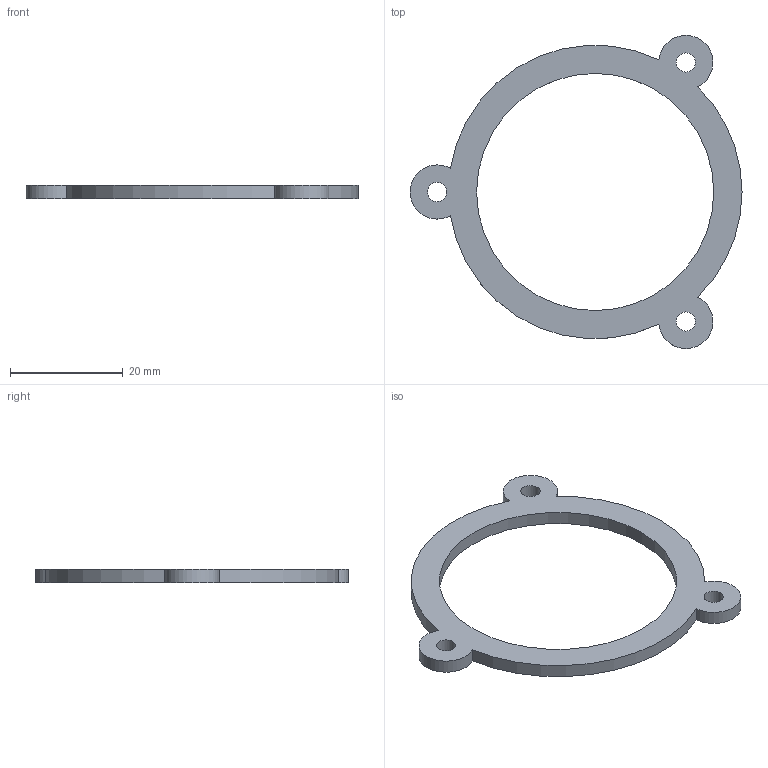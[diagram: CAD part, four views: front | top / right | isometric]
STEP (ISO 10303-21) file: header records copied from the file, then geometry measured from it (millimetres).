
FILE_DESCRIPTION(('Open CASCADE Model'),'2;1');
FILE_NAME('Open CASCADE Shape Model','2026-09-09T13:59:16',('Author'),( 'Open CASCADE'),'Open CASCADE STEP processor 7.9','Open CASCADE 7.9' ,'Unknown');
FILE_SCHEMA(('AUTOMOTIVE_DESIGN { 1 0 10303 214 1 1 1 1 }'));
Length unit declared in the file: millimetre
Products named in the file (1): Open CASCADE STEP translator 7.9 3
Bounding box: 58.8 x 55.44 x 2.4 mm (x, y, z)
Volume: 2108.5 mm3; surface area: 2625.8 mm2
Topology: 1 solids, 1 shells, 12 faces, 30 edges, 20 vertices
Faces by surface type: cylinder 10, plane 2
Full cylindrical faces by diameter (mm): 3.4 x3, 42 x1
Entity records: 832 total; most frequent: CARTESIAN_POINT 207, DIRECTION 122, ORIENTED_EDGE 60, PCURVE 60, DEFINITIONAL_REPRESENTATION 60, LINE 50, VECTOR 50, AXIS2_PLACEMENT_3D 33
